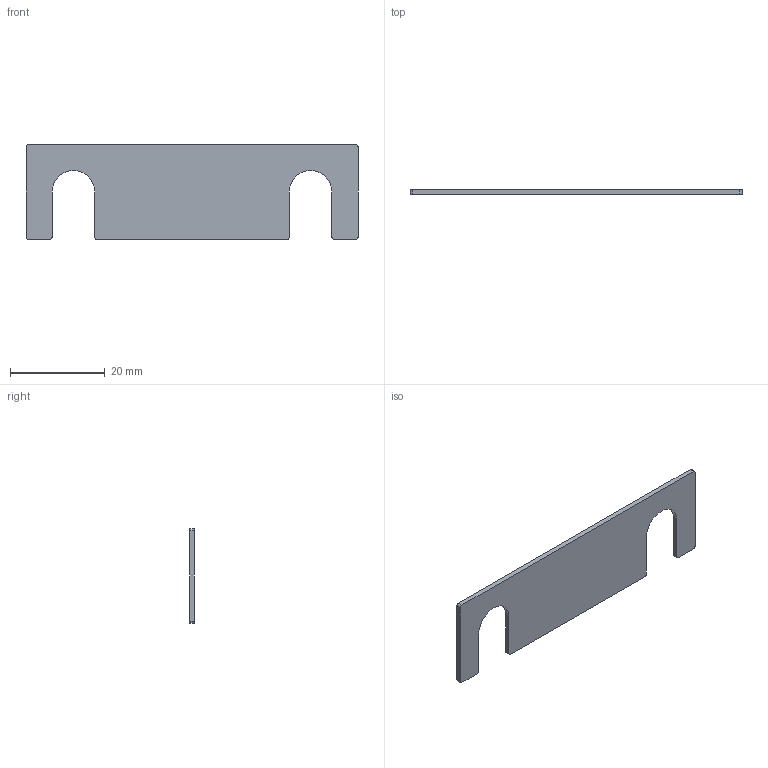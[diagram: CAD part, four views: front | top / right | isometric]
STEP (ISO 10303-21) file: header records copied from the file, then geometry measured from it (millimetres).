
FILE_DESCRIPTION(/* description */ (''),/* implementation_level */ '2;1');
FILE_NAME(/* name */ 'D:/特注品サイト/未アップ/シム・プレート(7)/角シム(キリ欠き穴2個).step',/* time_stamp */ '2020-11-13T13:59:41+09:00',/* author */ (''),/* organization */ (''),/* preprocessor_version */ 'ST-DEVELOPER v18.1',/* originating_system */ 'Autodesk Translation Framework v9.3.0.1241',/* authorisation */ '');
FILE_SCHEMA (('AUTOMOTIVE_DESIGN { 1 0 10303 214 3 1 1 }'));
Length unit declared in the file: millimetre
Products named in the file (1): 角シム(キリ欠き穴2個)
Bounding box: 70 x 1 x 20 mm (x, y, z)
Volume: 1156 mm3; surface area: 2540.5 mm2
Topology: 1 solids, 1 shells, 22 faces, 60 edges, 40 vertices
Faces by surface type: plane 12, cylinder 10
Entity records: 737 total; most frequent: DIRECTION 126, CARTESIAN_POINT 123, ORIENTED_EDGE 120, EDGE_CURVE 60, AXIS2_PLACEMENT_3D 43, LINE 40, VECTOR 40, VERTEX_POINT 40
